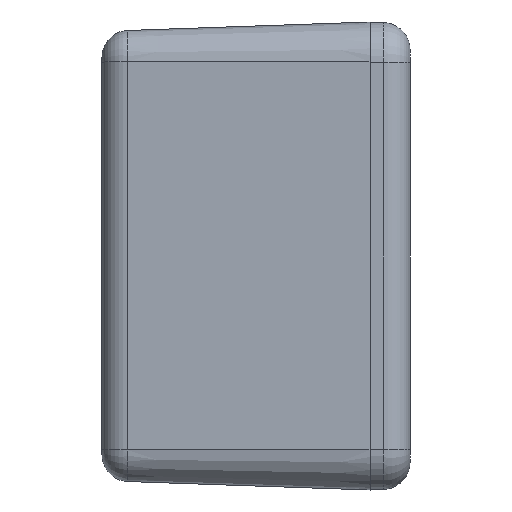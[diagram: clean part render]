
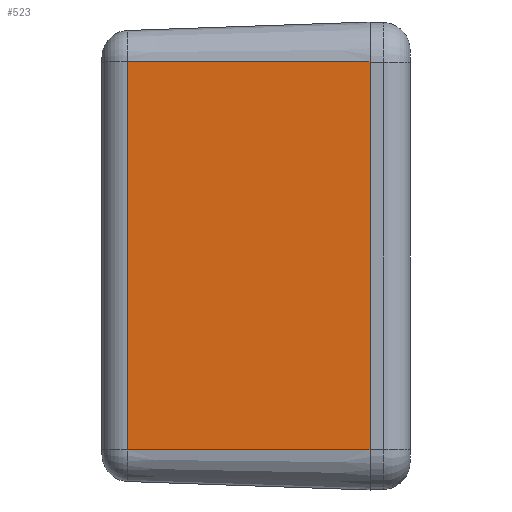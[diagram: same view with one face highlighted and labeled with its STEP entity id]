
A CAD part, left-side view. The second image highlights one B-rep face of the part: STEP entity #523.
In plain terms, the highlighted planar face has unit normal (-0.999, 0.035, 0).
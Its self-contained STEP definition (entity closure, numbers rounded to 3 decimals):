
#213 = DIRECTION ( 'NONE',  ( -0.035, -0.999, 0. ) ) ;
#342 = PLANE ( 'NONE',  #723 ) ;
#347 = EDGE_LOOP ( 'NONE', ( #805, #3952, #1481, #604 ) ) ;
#378 = LINE ( 'NONE', #1241, #3293 ) ;
#435 = EDGE_CURVE ( 'NONE', #1911, #2259, #1495, .T. ) ;
#467 = EDGE_CURVE ( 'NONE', #2259, #1208, #3928, .T. ) ;
#523 = ADVANCED_FACE ( 'NONE', ( #3630 ), #342, .T. ) ;
#604 = ORIENTED_EDGE ( 'NONE', *, *, #467, .T. ) ;
#723 = AXIS2_PLACEMENT_3D ( 'NONE', #1593, #882, #213 ) ;
#805 = ORIENTED_EDGE ( 'NONE', *, *, #3155, .F. ) ;
#882 = DIRECTION ( 'NONE',  ( -0.999, 0.035, 0. ) ) ;
#1091 = CARTESIAN_POINT ( 'NONE',  ( -35., 0., 14.55 ) ) ;
#1208 = VERTEX_POINT ( 'NONE', #1091 ) ;
#1241 = CARTESIAN_POINT ( 'NONE',  ( -34.365, 18.17, -14.55 ) ) ;
#1481 = ORIENTED_EDGE ( 'NONE', *, *, #435, .T. ) ;
#1495 = LINE ( 'NONE', #3527, #3084 ) ;
#1593 = CARTESIAN_POINT ( 'NONE',  ( -35., 0., -14.55 ) ) ;
#1605 = DIRECTION ( 'NONE',  ( -0.035, -0.999, 0. ) ) ;
#1911 = VERTEX_POINT ( 'NONE', #2117 ) ;
#1936 = DIRECTION ( 'NONE',  ( 0., 0., 1. ) ) ;
#2117 = CARTESIAN_POINT ( 'NONE',  ( -34.365, 18.17, -14.55 ) ) ;
#2259 = VERTEX_POINT ( 'NONE', #3554 ) ;
#2706 = CARTESIAN_POINT ( 'NONE',  ( -35., 0., 14.55 ) ) ;
#2740 = CARTESIAN_POINT ( 'NONE',  ( -34.365, 18.17, 14.55 ) ) ;
#2978 = VECTOR ( 'NONE', #1936, 1000. ) ;
#3041 = DIRECTION ( 'NONE',  ( -0.035, -0.999, 0. ) ) ;
#3084 = VECTOR ( 'NONE', #1605, 1000. ) ;
#3155 = EDGE_CURVE ( 'NONE', #3248, #1208, #3552, .T. ) ;
#3248 = VERTEX_POINT ( 'NONE', #2740 ) ;
#3293 = VECTOR ( 'NONE', #4130, 1000. ) ;
#3422 = EDGE_CURVE ( 'NONE', #3248, #1911, #378, .T. ) ;
#3458 = VECTOR ( 'NONE', #3041, 1000. ) ;
#3527 = CARTESIAN_POINT ( 'NONE',  ( -35., 0., -14.55 ) ) ;
#3552 = LINE ( 'NONE', #2706, #3458 ) ;
#3554 = CARTESIAN_POINT ( 'NONE',  ( -35., 0., -14.55 ) ) ;
#3630 = FACE_OUTER_BOUND ( 'NONE', #347, .T. ) ;
#3928 = LINE ( 'NONE', #4078, #2978 ) ;
#3952 = ORIENTED_EDGE ( 'NONE', *, *, #3422, .T. ) ;
#4078 = CARTESIAN_POINT ( 'NONE',  ( -35., 0., -14.55 ) ) ;
#4130 = DIRECTION ( 'NONE',  ( 0., 0., -1. ) ) ;
